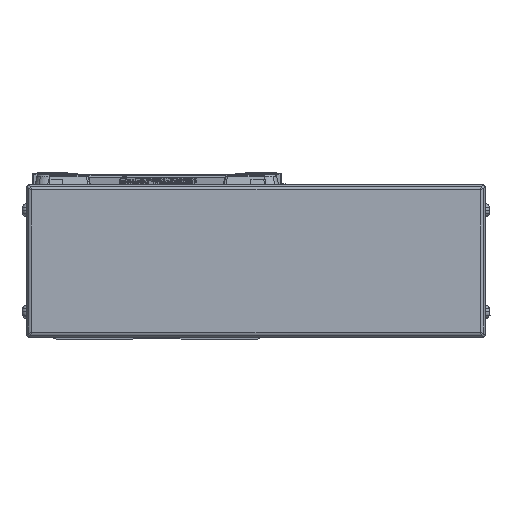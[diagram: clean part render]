
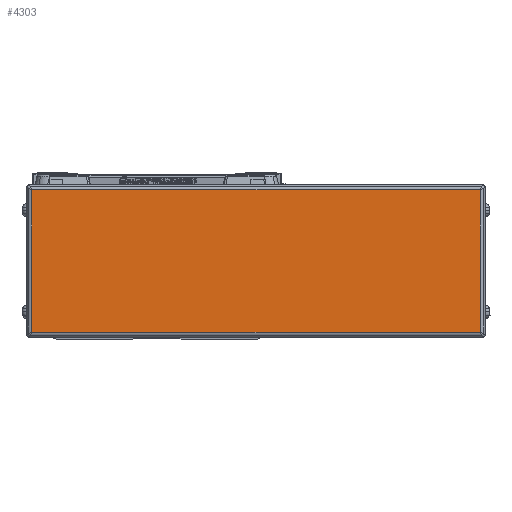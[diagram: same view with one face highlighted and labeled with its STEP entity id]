
A CAD part, left-side view. The second image highlights one B-rep face of the part: STEP entity #4303.
In plain terms, the highlighted planar face has unit normal (-1, 0, 0).
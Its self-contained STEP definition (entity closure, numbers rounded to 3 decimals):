
#4303=ADVANCED_FACE('',(#10122),#10123,.T.);
#10122=FACE_OUTER_BOUND('',#18181,.T.);
#10123=PLANE('',#18182);
#18181=EDGE_LOOP('',(#30492,#30493,#30494,#30495));
#18182=AXIS2_PLACEMENT_3D('',#30496,#30497,#30498);
#30492=ORIENTED_EDGE('',*,*,#49213,.F.);
#30493=ORIENTED_EDGE('',*,*,#49214,.F.);
#30494=ORIENTED_EDGE('',*,*,#45228,.F.);
#30495=ORIENTED_EDGE('',*,*,#49215,.F.);
#30496=CARTESIAN_POINT('',(-616.,-39.,0.));
#30497=DIRECTION('',(-1.0,0.,0.));
#30498=DIRECTION('',(0.,0.,1.0));
#45228=EDGE_CURVE('',#53771,#53773,#53774,.T.);
#49213=EDGE_CURVE('',#58558,#59172,#60473,.T.);
#49214=EDGE_CURVE('',#53773,#58558,#60474,.T.);
#49215=EDGE_CURVE('',#59172,#53771,#60475,.T.);
#53771=VERTEX_POINT('',#66299);
#53773=VERTEX_POINT('',#66301);
#53774=LINE('',#66302,#66303);
#58558=VERTEX_POINT('',#72765);
#59172=VERTEX_POINT('',#73598);
#60473=LINE('',#75371,#75372);
#60474=LINE('',#75373,#75374);
#60475=LINE('',#75375,#75376);
#66299=CARTESIAN_POINT('',(-616.,-127.2,-28.));
#66301=CARTESIAN_POINT('',(-616.0,49.2,-28.));
#66302=CARTESIAN_POINT('',(-616.,-39.,-28.));
#66303=VECTOR('',#83244,10.0);
#72765=CARTESIAN_POINT('',(-616.,49.2,28.));
#73598=CARTESIAN_POINT('',(-616.,-127.2,28.));
#75371=CARTESIAN_POINT('',(-616.,-39.,28.));
#75372=VECTOR('',#88882,10.0);
#75373=CARTESIAN_POINT('',(-616.0,49.2,0.));
#75374=VECTOR('',#88883,10.0);
#75375=CARTESIAN_POINT('',(-616.,-127.2,0.));
#75376=VECTOR('',#88884,10.0);
#83244=DIRECTION('',(0.,1.0,0.));
#88882=DIRECTION('',(0.,-1.0,0.));
#88883=DIRECTION('',(0.,0.,1.0));
#88884=DIRECTION('',(0.,0.,-1.0));
